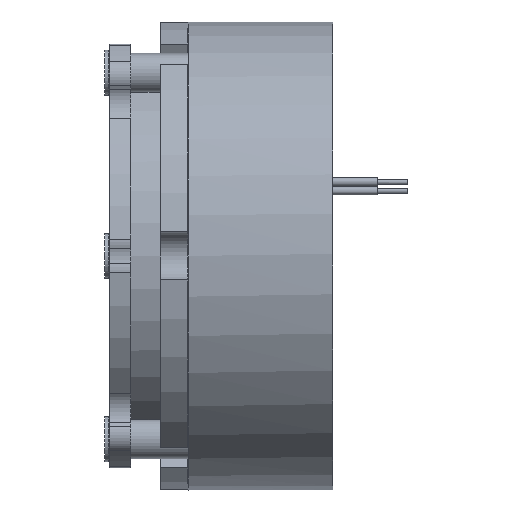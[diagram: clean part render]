
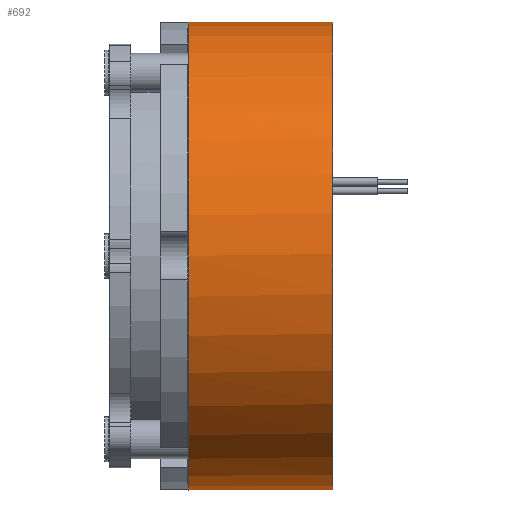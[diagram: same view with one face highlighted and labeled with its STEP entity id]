
A CAD part, front view. The second image highlights one B-rep face of the part: STEP entity #692.
In plain terms, the highlighted cylindrical face has radius 39 mm (diameter 78 mm), a full revolution.
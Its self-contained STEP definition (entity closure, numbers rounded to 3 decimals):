
#39 = VERTEX_POINT ( 'NONE', #2348 ) ;
#91 = CIRCLE ( 'NONE', #3401, 39. ) ;
#318 = CARTESIAN_POINT ( 'NONE',  ( 0., 37.022, 12.262 ) ) ;
#340 = DIRECTION ( 'NONE',  ( 1., 0., 0. ) ) ;
#343 = CARTESIAN_POINT ( 'NONE',  ( 16.5, 0., 0. ) ) ;
#433 = AXIS2_PLACEMENT_3D ( 'NONE', #1408, #2226, #3095 ) ;
#480 = DIRECTION ( 'NONE',  ( -1., 0., 0. ) ) ;
#583 = EDGE_CURVE ( 'NONE', #3245, #2311, #3515, .T. ) ;
#609 = CARTESIAN_POINT ( 'NONE',  ( 16.5, 37.022, 12.262 ) ) ;
#692 = ADVANCED_FACE ( 'NONE', ( #3601, #1578 ), #3390, .T. ) ;
#733 = EDGE_CURVE ( 'NONE', #794, #1477, #91, .T. ) ;
#753 = CARTESIAN_POINT ( 'NONE',  ( 16.5, 35.149, 16.898 ) ) ;
#769 = AXIS2_PLACEMENT_3D ( 'NONE', #814, #1083, #3333 ) ;
#794 = VERTEX_POINT ( 'NONE', #609 ) ;
#814 = CARTESIAN_POINT ( 'NONE',  ( 24., 0., 0. ) ) ;
#907 = VECTOR ( 'NONE', #340, 1000. ) ;
#1038 = CARTESIAN_POINT ( 'NONE',  ( 0., 35.149, 16.898 ) ) ;
#1083 = DIRECTION ( 'NONE',  ( -1., 0., 0. ) ) ;
#1150 = EDGE_LOOP ( 'NONE', ( #1169, #3193, #3246, #3637 ) ) ;
#1161 = EDGE_CURVE ( 'NONE', #39, #39, #2038, .T. ) ;
#1169 = ORIENTED_EDGE ( 'NONE', *, *, #583, .T. ) ;
#1197 = CARTESIAN_POINT ( 'NONE',  ( 0., 0., 0. ) ) ;
#1295 = EDGE_CURVE ( 'NONE', #2311, #1477, #2034, .T. ) ;
#1395 = CARTESIAN_POINT ( 'NONE',  ( 24., 37.022, 12.262 ) ) ;
#1408 = CARTESIAN_POINT ( 'NONE',  ( 0., 0., 0. ) ) ;
#1477 = VERTEX_POINT ( 'NONE', #753 ) ;
#1513 = DIRECTION ( 'NONE',  ( 0., 0., 1. ) ) ;
#1578 = FACE_OUTER_BOUND ( 'NONE', #1980, .T. ) ;
#1730 = DIRECTION ( 'NONE',  ( 0., 0., -1. ) ) ;
#1980 = EDGE_LOOP ( 'NONE', ( #2295 ) ) ;
#2034 = LINE ( 'NONE', #1038, #3013 ) ;
#2038 = CIRCLE ( 'NONE', #3019, 39. ) ;
#2198 = EDGE_CURVE ( 'NONE', #794, #3245, #2624, .T. ) ;
#2226 = DIRECTION ( 'NONE',  ( -1., 0., 0. ) ) ;
#2295 = ORIENTED_EDGE ( 'NONE', *, *, #1161, .F. ) ;
#2311 = VERTEX_POINT ( 'NONE', #2411 ) ;
#2348 = CARTESIAN_POINT ( 'NONE',  ( 0., 0., 39. ) ) ;
#2411 = CARTESIAN_POINT ( 'NONE',  ( 24., 35.149, 16.898 ) ) ;
#2624 = LINE ( 'NONE', #318, #907 ) ;
#3013 = VECTOR ( 'NONE', #480, 1000. ) ;
#3019 = AXIS2_PLACEMENT_3D ( 'NONE', #1197, #3200, #1513 ) ;
#3095 = DIRECTION ( 'NONE',  ( 0., 0., 1. ) ) ;
#3193 = ORIENTED_EDGE ( 'NONE', *, *, #1295, .T. ) ;
#3200 = DIRECTION ( 'NONE',  ( -1., 0., 0. ) ) ;
#3245 = VERTEX_POINT ( 'NONE', #1395 ) ;
#3246 = ORIENTED_EDGE ( 'NONE', *, *, #733, .F. ) ;
#3333 = DIRECTION ( 'NONE',  ( 0., 0., 1. ) ) ;
#3390 = CYLINDRICAL_SURFACE ( 'NONE', #433, 39. ) ;
#3401 = AXIS2_PLACEMENT_3D ( 'NONE', #343, #3411, #1730 ) ;
#3411 = DIRECTION ( 'NONE',  ( 1., 0., 0. ) ) ;
#3515 = CIRCLE ( 'NONE', #769, 39. ) ;
#3601 = FACE_OUTER_BOUND ( 'NONE', #1150, .T. ) ;
#3637 = ORIENTED_EDGE ( 'NONE', *, *, #2198, .T. ) ;
